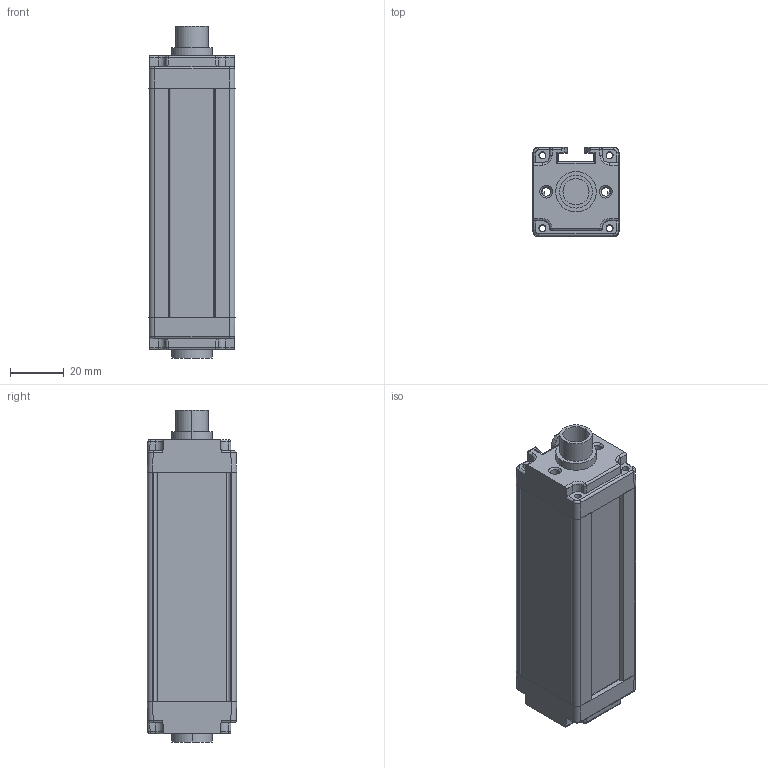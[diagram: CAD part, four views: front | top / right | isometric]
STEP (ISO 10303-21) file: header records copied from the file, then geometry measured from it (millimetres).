
FILE_DESCRIPTION(/* description */ (''),/* implementation_level */ '2;1');
FILE_NAME(/* name */ 'TYG10-06.stp',/* time_stamp */ '2023-08-25T10:05:37+08:00',/* author */ (''),/* organization */ (''),/* preprocessor_version */ 'ST-DEVELOPER v16',/* originating_system */ 'SIEMENS PLM Software NX 11.0',/* authorisation */ '');
FILE_SCHEMA (('AUTOMOTIVE_DESIGN { 1 0 10303 214 3 1 1 1 }'));
Length unit declared in the file: millimetre
Products named in the file (5): YAKELI; B-0823; K-0823; 20230331; TYG10-_stp
Assembly tree (4 placements, depth 2):
  TYG10-_stp
    20230331
    K-0823
    B-0823
    YAKELI
Bounding box: 31.87 x 33.07 x 123 mm (x, y, z)
Volume: 38719.3 mm3; surface area: 42594.1 mm2
Topology: 4 solids, 4 shells, 629 faces, 1887 edges, 1256 vertices
Faces by surface type: plane 346, cylinder 203, cone 36, sphere 16, torus 16, extrusion 8, bspline 4
Entity records: 21871 total; most frequent: CARTESIAN_POINT 4469, ORIENTED_EDGE 3758, DIRECTION 3553, EDGE_CURVE 1879, VERTEX_POINT 1256, AXIS2_PLACEMENT_3D 1188, VECTOR 1177, LINE 1169
